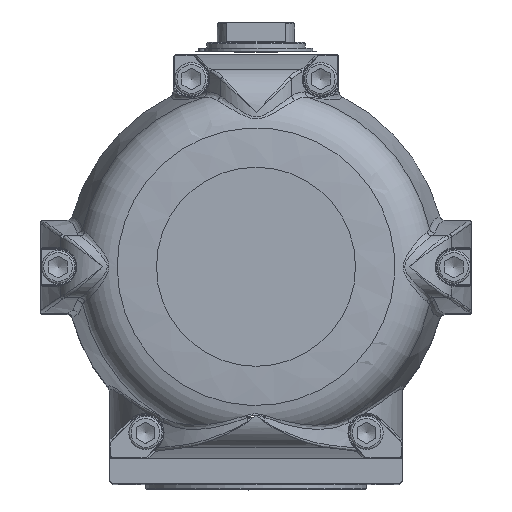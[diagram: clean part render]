
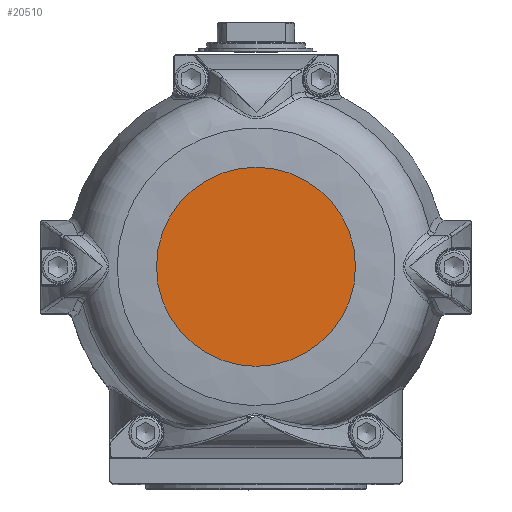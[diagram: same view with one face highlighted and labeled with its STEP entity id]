
A CAD part, top view. The second image highlights one B-rep face of the part: STEP entity #20510.
In plain terms, the highlighted planar face has unit normal (0, 0, 1).
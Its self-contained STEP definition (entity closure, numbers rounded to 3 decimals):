
#20494=CARTESIAN_POINT('',(-45.,0.,408.5));
#20495=DIRECTION('',(0.0,0.0,1.0));
#20496=DIRECTION('',(0.0,-1.0,0.0));
#20497=AXIS2_PLACEMENT_3D('',#20494,#20495,#20496);
#20498=PLANE('',#20497);
#20499=CARTESIAN_POINT('',(-90.,0.,408.5));
#20500=VERTEX_POINT('',#20499);
#20501=CARTESIAN_POINT('',(0.,0.,408.5));
#20502=DIRECTION('',(0.0,0.0,-1.0));
#20503=DIRECTION('',(-1.0,0.0,0.0));
#20504=AXIS2_PLACEMENT_3D('',#20501,#20502,#20503);
#20505=CIRCLE('',#20504,90.0);
#20506=EDGE_CURVE('',#20500,#20500,#20505,.T.);
#20507=ORIENTED_EDGE('',*,*,#20506,.F.);
#20508=EDGE_LOOP('',(#20507));
#20509=FACE_OUTER_BOUND('',#20508,.T.);
#20510=ADVANCED_FACE('',(#20509),#20498,.T.);
